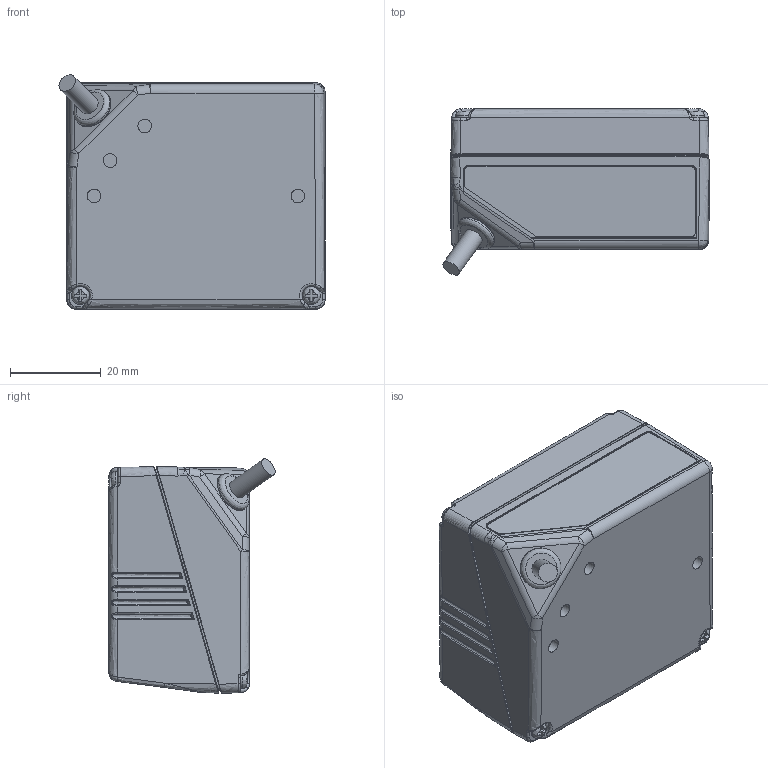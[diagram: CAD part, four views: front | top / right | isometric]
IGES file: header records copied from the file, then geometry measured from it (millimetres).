
Global section: file name: C:\studi10\ASS-TC1200.igs; preprocessor: I-DEAS 3D IGES Translator 13; date: 20110303.110721; units: millimetre
Bounding box: 58.73 x 36.7 x 51.73 mm (x, y, z)
Volume: 26852.9 mm3; surface area: 27715.9 mm2
Topology: 10 solids, 10 shells, 1512 faces, 3512 edges, 1946 vertices
Faces by surface type: bspline 1512
